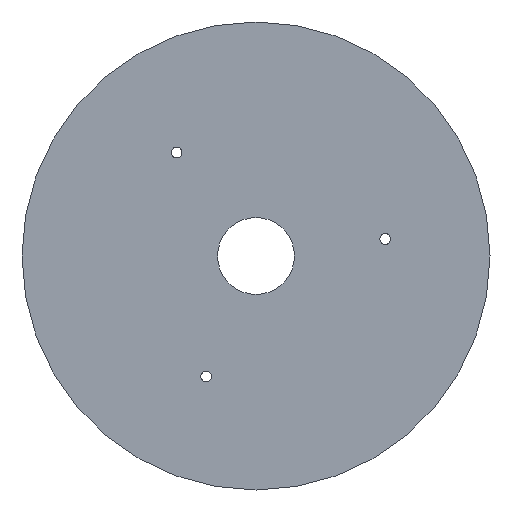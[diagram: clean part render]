
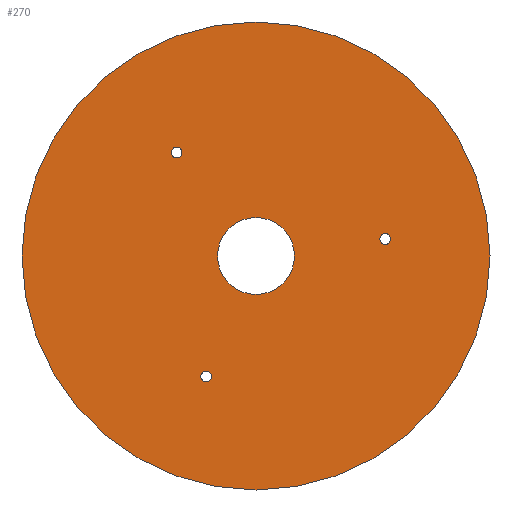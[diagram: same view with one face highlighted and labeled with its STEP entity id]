
A CAD part, front view. The second image highlights one B-rep face of the part: STEP entity #270.
In plain terms, the highlighted planar face has unit normal (0, -1, 0).
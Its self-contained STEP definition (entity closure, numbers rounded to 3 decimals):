
#270 = ADVANCED_FACE ( 'NONE', ( #8914, #8915, #8916, #8917, #8918 ), #2110, .F. ) ;
#453 = EDGE_CURVE ( 'NONE', #1728, #1732, #5987, .T. ) ;
#628 = ORIENTED_EDGE ( 'NONE', *, *, #4914, .F. ) ;
#629 = ORIENTED_EDGE ( 'NONE', *, *, #453, .F. ) ;
#630 = ORIENTED_EDGE ( 'NONE', *, *, #4913, .F. ) ;
#631 = ORIENTED_EDGE ( 'NONE', *, *, #4915, .F. ) ;
#632 = ORIENTED_EDGE ( 'NONE', *, *, #3342, .F. ) ;
#633 = ORIENTED_EDGE ( 'NONE', *, *, #1986, .F. ) ;
#634 = ORIENTED_EDGE ( 'NONE', *, *, #5653, .F. ) ;
#636 = ORIENTED_EDGE ( 'NONE', *, *, #5657, .F. ) ;
#637 = ORIENTED_EDGE ( 'NONE', *, *, #5661, .F. ) ;
#1492 = CIRCLE ( 'NONE', #1499, 5.75 ) ;
#1494 = CIRCLE ( 'NONE', #1501, 0.8 ) ;
#1499 = AXIS2_PLACEMENT_3D ( 'NONE', #4028, #4027, #4026 ) ;
#1501 = AXIS2_PLACEMENT_3D ( 'NONE', #4024, #4023, #4022 ) ;
#1502 = CIRCLE ( 'NONE', #1503, 0.8 ) ;
#1503 = AXIS2_PLACEMENT_3D ( 'NONE', #4021, #4020, #4019 ) ;
#1504 = CIRCLE ( 'NONE', #1505, 0.8 ) ;
#1505 = AXIS2_PLACEMENT_3D ( 'NONE', #4018, #4017, #4016 ) ;
#1657 = VERTEX_POINT ( 'NONE', #8245 ) ;
#1660 = VERTEX_POINT ( 'NONE', #8241 ) ;
#1671 = VERTEX_POINT ( 'NONE', #8228 ) ;
#1674 = VERTEX_POINT ( 'NONE', #8224 ) ;
#1685 = VERTEX_POINT ( 'NONE', #8212 ) ;
#1688 = VERTEX_POINT ( 'NONE', #8207 ) ;
#1699 = VERTEX_POINT ( 'NONE', #8195 ) ;
#1702 = VERTEX_POINT ( 'NONE', #8191 ) ;
#1728 = VERTEX_POINT ( 'NONE', #8160 ) ;
#1732 = VERTEX_POINT ( 'NONE', #8155 ) ;
#1986 = EDGE_CURVE ( 'NONE', #1657, #1660, #7381, .T. ) ;
#2107 = DIRECTION ( 'NONE',  ( 0., 0., 1. ) ) ;
#2108 = DIRECTION ( 'NONE',  ( 0., 1., 0. ) ) ;
#2109 = CARTESIAN_POINT ( 'NONE',  ( 0., 0., 0. ) ) ;
#2110 = PLANE ( 'NONE',  #5724 ) ;
#2427 = DIRECTION ( 'NONE',  ( 0., 0., 1. ) ) ;
#2432 = DIRECTION ( 'NONE',  ( 0., 1., 0. ) ) ;
#2437 = CARTESIAN_POINT ( 'NONE',  ( 0., 0., 0. ) ) ;
#2495 = DIRECTION ( 'NONE',  ( 0., 0., -1. ) ) ;
#2499 = DIRECTION ( 'NONE',  ( 0., -1., 0. ) ) ;
#2504 = CARTESIAN_POINT ( 'NONE',  ( -7.462, 0., -18.016 ) ) ;
#2546 = DIRECTION ( 'NONE',  ( 0., 0., -1. ) ) ;
#2550 = DIRECTION ( 'NONE',  ( 0., -1., 0. ) ) ;
#2554 = CARTESIAN_POINT ( 'NONE',  ( 19.333, 0., 2.545 ) ) ;
#2944 = EDGE_LOOP ( 'NONE', ( #633, #637 ) ) ;
#2945 = EDGE_LOOP ( 'NONE', ( #631, #636 ) ) ;
#2946 = EDGE_LOOP ( 'NONE', ( #628, #634 ) ) ;
#2947 = EDGE_LOOP ( 'NONE', ( #630, #632 ) ) ;
#2948 = EDGE_LOOP ( 'NONE', ( #5521, #629 ) ) ;
#3342 = EDGE_CURVE ( 'NONE', #1702, #1699, #7490, .T. ) ;
#4016 = DIRECTION ( 'NONE',  ( 0., 0., -1. ) ) ;
#4017 = DIRECTION ( 'NONE',  ( 0., -1., 0. ) ) ;
#4018 = CARTESIAN_POINT ( 'NONE',  ( -7.462, 0., -18.016 ) ) ;
#4019 = DIRECTION ( 'NONE',  ( 0., 0., -1. ) ) ;
#4020 = DIRECTION ( 'NONE',  ( 0., -1., 0. ) ) ;
#4021 = CARTESIAN_POINT ( 'NONE',  ( 19.333, 0., 2.545 ) ) ;
#4022 = DIRECTION ( 'NONE',  ( 0., 0., -1. ) ) ;
#4023 = DIRECTION ( 'NONE',  ( 0., -1., 0. ) ) ;
#4024 = CARTESIAN_POINT ( 'NONE',  ( -11.871, 0., 15.47 ) ) ;
#4026 = DIRECTION ( 'NONE',  ( 0., 0., -1. ) ) ;
#4027 = DIRECTION ( 'NONE',  ( 0., -1., 0. ) ) ;
#4028 = CARTESIAN_POINT ( 'NONE',  ( 0., 0., 0. ) ) ;
#4742 = DIRECTION ( 'NONE',  ( 0., 0., -1. ) ) ;
#4744 = DIRECTION ( 'NONE',  ( 0., -1., 0. ) ) ;
#4747 = CARTESIAN_POINT ( 'NONE',  ( -11.871, 0., 15.47 ) ) ;
#4912 = EDGE_CURVE ( 'NONE', #1732, #1728, #1492, .T. ) ;
#4913 = EDGE_CURVE ( 'NONE', #1699, #1702, #1494, .T. ) ;
#4914 = EDGE_CURVE ( 'NONE', #1685, #1688, #1502, .T. ) ;
#4915 = EDGE_CURVE ( 'NONE', #1671, #1674, #1504, .T. ) ;
#5148 = DIRECTION ( 'NONE',  ( 0., 0., 1. ) ) ;
#5149 = DIRECTION ( 'NONE',  ( 0., 1., 0. ) ) ;
#5150 = CARTESIAN_POINT ( 'NONE',  ( 0., 0., 0. ) ) ;
#5521 = ORIENTED_EDGE ( 'NONE', *, *, #4912, .F. ) ;
#5653 = EDGE_CURVE ( 'NONE', #1688, #1685, #7081, .T. ) ;
#5657 = EDGE_CURVE ( 'NONE', #1674, #1671, #7088, .T. ) ;
#5661 = EDGE_CURVE ( 'NONE', #1660, #1657, #7094, .T. ) ;
#5724 = AXIS2_PLACEMENT_3D ( 'NONE', #2109, #2108, #2107 ) ;
#5987 = CIRCLE ( 'NONE', #6110, 5.75 ) ;
#6110 = AXIS2_PLACEMENT_3D ( 'NONE', #8583, #8582, #8581 ) ;
#7081 = CIRCLE ( 'NONE', #7089, 0.8 ) ;
#7088 = CIRCLE ( 'NONE', #7095, 0.8 ) ;
#7089 = AXIS2_PLACEMENT_3D ( 'NONE', #2554, #2550, #2546 ) ;
#7094 = CIRCLE ( 'NONE', #7101, 35. ) ;
#7095 = AXIS2_PLACEMENT_3D ( 'NONE', #2504, #2499, #2495 ) ;
#7101 = AXIS2_PLACEMENT_3D ( 'NONE', #2437, #2432, #2427 ) ;
#7381 = CIRCLE ( 'NONE', #7382, 35. ) ;
#7382 = AXIS2_PLACEMENT_3D ( 'NONE', #5150, #5149, #5148 ) ;
#7490 = CIRCLE ( 'NONE', #7492, 0.8 ) ;
#7492 = AXIS2_PLACEMENT_3D ( 'NONE', #4747, #4744, #4742 ) ;
#8155 = CARTESIAN_POINT ( 'NONE',  ( 0., 0., -5.75 ) ) ;
#8160 = CARTESIAN_POINT ( 'NONE',  ( 0., 0., 5.75 ) ) ;
#8191 = CARTESIAN_POINT ( 'NONE',  ( -11.871, 0., 16.27 ) ) ;
#8195 = CARTESIAN_POINT ( 'NONE',  ( -11.871, 0., 14.67 ) ) ;
#8207 = CARTESIAN_POINT ( 'NONE',  ( 19.333, 0., 3.345 ) ) ;
#8212 = CARTESIAN_POINT ( 'NONE',  ( 19.333, 0., 1.745 ) ) ;
#8224 = CARTESIAN_POINT ( 'NONE',  ( -7.462, 0., -17.216 ) ) ;
#8228 = CARTESIAN_POINT ( 'NONE',  ( -7.462, 0., -18.816 ) ) ;
#8241 = CARTESIAN_POINT ( 'NONE',  ( 0., 0., 35. ) ) ;
#8245 = CARTESIAN_POINT ( 'NONE',  ( 0., 0., -35. ) ) ;
#8581 = DIRECTION ( 'NONE',  ( 0., 0., -1. ) ) ;
#8582 = DIRECTION ( 'NONE',  ( 0., -1., 0. ) ) ;
#8583 = CARTESIAN_POINT ( 'NONE',  ( 0., 0., 0. ) ) ;
#8914 = FACE_BOUND ( 'NONE', #2948, .T. ) ;
#8915 = FACE_BOUND ( 'NONE', #2947, .T. ) ;
#8916 = FACE_BOUND ( 'NONE', #2946, .T. ) ;
#8917 = FACE_BOUND ( 'NONE', #2945, .T. ) ;
#8918 = FACE_OUTER_BOUND ( 'NONE', #2944, .T. ) ;
